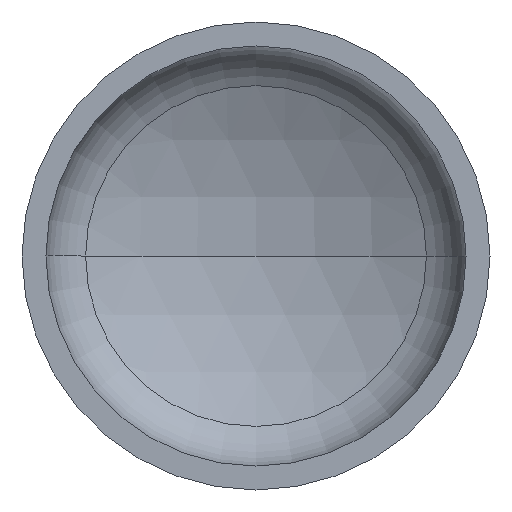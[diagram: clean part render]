
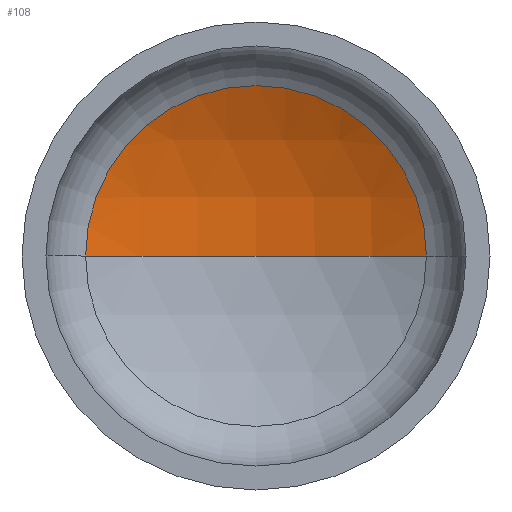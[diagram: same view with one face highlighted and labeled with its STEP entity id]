
A CAD part, front view. The second image highlights one B-rep face of the part: STEP entity #108.
In plain terms, the highlighted spherical face has radius 720 mm.
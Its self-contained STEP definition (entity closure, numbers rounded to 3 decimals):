
#2 = AXIS2_PLACEMENT_3D ( 'NONE', #139, #147, #310 ) ;
#18 = AXIS2_PLACEMENT_3D ( 'NONE', #161, #236, #215 ) ;
#19 = EDGE_LOOP ( 'NONE', ( #29, #134, #22 ) ) ;
#22 = ORIENTED_EDGE ( 'NONE', *, *, #338, .T. ) ;
#23 = AXIS2_PLACEMENT_3D ( 'NONE', #167, #163, #166 ) ;
#29 = ORIENTED_EDGE ( 'NONE', *, *, #389, .F. ) ;
#65 = AXIS2_PLACEMENT_3D ( 'NONE', #304, #369, #202 ) ;
#71 = VERTEX_POINT ( 'NONE', #284 ) ;
#84 = CIRCLE ( 'NONE', #18, 720. ) ;
#101 = VERTEX_POINT ( 'NONE', #306 ) ;
#108 = ADVANCED_FACE ( 'NONE', ( #349 ), #281, .F. ) ;
#117 = VERTEX_POINT ( 'NONE', #294 ) ;
#134 = ORIENTED_EDGE ( 'NONE', *, *, #344, .T. ) ;
#139 = CARTESIAN_POINT ( 'NONE',  ( 0., -376.434, 0. ) ) ;
#147 = DIRECTION ( 'NONE',  ( 0., 0., 1. ) ) ;
#161 = CARTESIAN_POINT ( 'NONE',  ( 0., -376.434, 0. ) ) ;
#163 = DIRECTION ( 'NONE',  ( 0., -1., 0. ) ) ;
#166 = DIRECTION ( 'NONE',  ( 1., 0., 0. ) ) ;
#167 = CARTESIAN_POINT ( 'NONE',  ( 0., 264.656, 0. ) ) ;
#202 = DIRECTION ( 'NONE',  ( -1., 0., 0. ) ) ;
#215 = DIRECTION ( 'NONE',  ( -1., 0., 0. ) ) ;
#230 = CIRCLE ( 'NONE', #2, 720. ) ;
#236 = DIRECTION ( 'NONE',  ( 0., 0., -1. ) ) ;
#281 = SPHERICAL_SURFACE ( 'NONE', #65, 720. ) ;
#284 = CARTESIAN_POINT ( 'NONE',  ( -327.724, 264.656, 0. ) ) ;
#294 = CARTESIAN_POINT ( 'NONE',  ( 327.724, 264.656, 0. ) ) ;
#304 = CARTESIAN_POINT ( 'NONE',  ( 0., -376.434, 0. ) ) ;
#306 = CARTESIAN_POINT ( 'NONE',  ( 0., 343.566, 0. ) ) ;
#310 = DIRECTION ( 'NONE',  ( 1., 0., 0. ) ) ;
#338 = EDGE_CURVE ( 'NONE', #117, #71, #384, .T. ) ;
#344 = EDGE_CURVE ( 'NONE', #101, #117, #84, .T. ) ;
#349 = FACE_OUTER_BOUND ( 'NONE', #19, .T. ) ;
#369 = DIRECTION ( 'NONE',  ( 0., 0., -1. ) ) ;
#384 = CIRCLE ( 'NONE', #23, 327.724 ) ;
#389 = EDGE_CURVE ( 'NONE', #101, #71, #230, .T. ) ;
